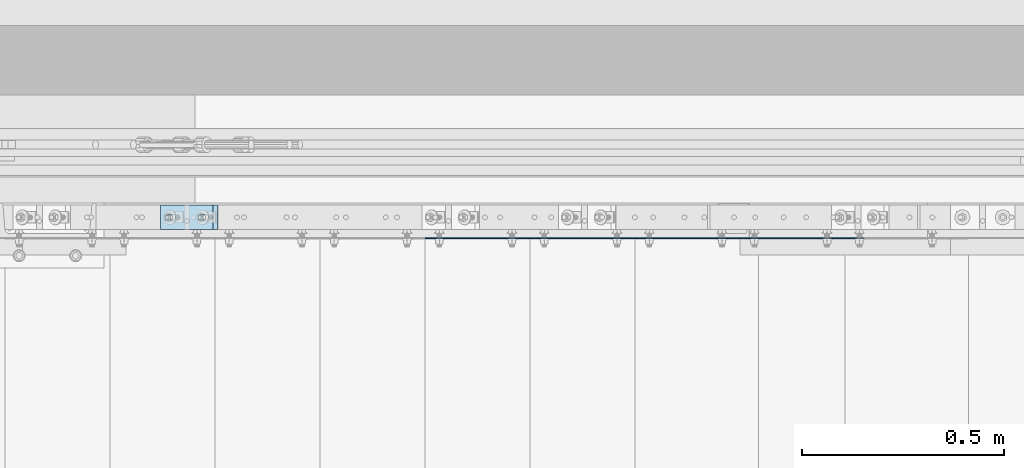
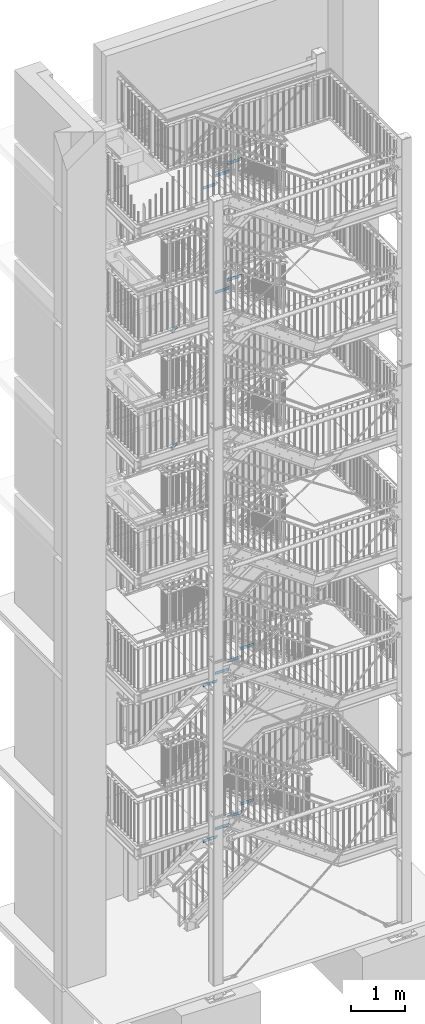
# One storey, part 196 of 831: 15 plates, 30 openings.
"""IFC2X3 building model written with IfcOpenShell, lengths in millimetres."""

import ifcopenshell
import ifcopenshell.guid

model = None  # the IFC model being written
_history = None  # IfcOwnerHistory: only IFC2X3 demands one
_inside = {}  # id of a spatial element -> (the spatial element, [elements in it])
_under = {}  # id of a project, library or spatial element -> (it, [spatial elements below it])
_declared = {}  # id of a project -> (the project, [libraries it declares])
_typed = {}  # id of a type object -> (the type object, [elements of that type])
_made_of = {}  # id of a material, layer set ... -> (it, [elements and type objects made of it])


def new_model(schema):
    """Start an empty IFC model of exactly this schema.

    Asked for "IFC4X3", IfcOpenShell would pick the latest addendum, in which some entities
    have other attributes; the version numbers below select the first issue.
    IFC2X3 requires an IfcOwnerHistory on every rooted entity: one is made here for all.
    """
    global model, _history
    if schema == "IFC4X3":
        model = ifcopenshell.file(schema_version=(4, 3, 0, 0))
    else:
        model = ifcopenshell.file(schema=schema)
    _inside.clear()
    _under.clear()
    _declared.clear()
    _typed.clear()
    _made_of.clear()
    _history = None
    if model.schema == "IFC2X3":
        org = make("IfcOrganization", Name="unknown")
        user = make(
            "IfcPersonAndOrganization",
            ThePerson=make("IfcPerson", FamilyName="unknown"),
            TheOrganization=org,
        )
        app = make(
            "IfcApplication",
            ApplicationDeveloper=org,
            Version="unknown",
            ApplicationFullName="unknown",
            ApplicationIdentifier="unknown",
        )
        _history = make(
            "IfcOwnerHistory",
            OwningUser=user,
            OwningApplication=app,
            ChangeAction="ADDED",
            CreationDate=0,
        )
    return model


def make(cls, **values):
    """One entity of the class cls with the attributes given. An attribute that is None is left unset."""
    return model.create_entity(
        cls, **{name: value for name, value in values.items() if value is not None}
    )


def entity(cls, *values):
    """Any entity or typed value of the class cls, its attributes in the order of the schema. None: left unset."""
    e = model.create_entity(cls)
    for i, value in enumerate(values):
        if value is not None:
            e[i] = value
    return e


def rooted(cls, **values):
    """An entity with a GlobalId (a new one), such as an element, a storey or a relation."""
    return make(cls, GlobalId=ifcopenshell.guid.new(), OwnerHistory=_history, **values)


def si_unit(unit_type, name, prefix=None):
    """IfcSIUnit, for example si_unit("LENGTHUNIT", "METRE", prefix="MILLI")."""
    return make("IfcSIUnit", UnitType=unit_type, Prefix=prefix, Name=name)


def converted_unit(unit_type, name, factor, base, dimensions=None, offset=None):
    """IfcConversionBasedUnit, such as the inch: factor (a typed value) times the base unit."""
    return make(
        "IfcConversionBasedUnit"
        if offset is None
        else "IfcConversionBasedUnitWithOffset",
        ConversionOffset=offset,
        Dimensions=None
        if dimensions is None
        else entity("IfcDimensionalExponents", *dimensions),
        UnitType=unit_type,
        Name=name,
        ConversionFactor=make(
            "IfcMeasureWithUnit", ValueComponent=factor, UnitComponent=base
        ),
    )


def assignment(units):
    """IfcUnitAssignment: the units of a project."""
    return None if units is None else make("IfcUnitAssignment", Units=units)


def point(xyz):
    """IfcCartesianPoint."""
    return None if xyz is None else make("IfcCartesianPoint", Coordinates=xyz)


def direction(xyz):
    """IfcDirection."""
    return None if xyz is None else make("IfcDirection", DirectionRatios=xyz)


def frame(location, z_axis=None, x_axis=None):
    """IfcAxis2Placement3D, a coordinate frame: its origin and axes. An axis left out is left unset."""
    return make(
        "IfcAxis2Placement3D",
        Location=point(location),
        Axis=direction(z_axis),
        RefDirection=direction(x_axis),
    )


def frame_2d(location, x_axis=None):
    """IfcAxis2Placement2D, a coordinate frame in the plane: its origin and x axis."""
    return make(
        "IfcAxis2Placement2D", Location=point(location), RefDirection=direction(x_axis)
    )


def origin():
    """The frame at (0, 0, 0) with its axes left unset."""
    return frame((0.0, 0.0, 0.0))


def origin_with_axes():
    """The frame at (0, 0, 0) with the z axis (0, 0, 1) and the x axis (1, 0, 0) written out."""
    return frame((0.0, 0.0, 0.0), z_axis=(0.0, 0.0, 1.0), x_axis=(1.0, 0.0, 0.0))


def origin_2d_with_axis():
    """The frame at (0, 0) in the plane with the x axis (1, 0) written out."""
    return frame_2d((0.0, 0.0), x_axis=(1.0, 0.0))


def place(relative_to, where):
    """IfcLocalPlacement: puts the frame where relative to a parent placement (None: the world)."""
    return make(
        "IfcLocalPlacement", PlacementRelTo=relative_to, RelativePlacement=where
    )


def context(
    kind, dimensions, precision=None, world=None, true_north=None, identifier=None
):
    """IfcGeometricRepresentationContext, for example the 3D "Model" context."""
    return make(
        "IfcGeometricRepresentationContext",
        ContextIdentifier=identifier,
        ContextType=kind,
        CoordinateSpaceDimension=dimensions,
        Precision=precision,
        WorldCoordinateSystem=world,
        TrueNorth=true_north,
    )


def project(units=None, contexts=None):
    """IfcProject with its units and contexts."""
    return rooted(
        "IfcProject",
        Name="project",
        RepresentationContexts=contexts,
        UnitsInContext=assignment(units),
    )


def spatial(cls, under=None, at=None, **own):
    """A site, building, storey or space (cls), placed at a placement, below another one or the project."""
    s = rooted(cls, ObjectPlacement=at, **own)
    if under is not None:
        _under.setdefault(under.id(), (under, []))[1].append(s)
    return s


def polyline(points):
    """IfcPolyline through the points."""
    return make("IfcPolyline", Points=[point(p) for p in points])


def circle_curve(where, radius):
    """IfcCircle in the frame where."""
    return make("IfcCircle", Position=where, Radius=radius)


def line_curve(start, along, magnitude):
    """IfcLine from a point along a vector."""
    return make(
        "IfcLine",
        Pnt=point(start),
        Dir=make("IfcVector", Orientation=direction(along), Magnitude=magnitude),
    )


def trimmed(basis, trim1, trim2, sense, master):
    """IfcTrimmedCurve: the piece of a basis curve between two trims."""
    return make(
        "IfcTrimmedCurve",
        BasisCurve=basis,
        Trim1=trim1,
        Trim2=trim2,
        SenseAgreement=sense,
        MasterRepresentation=master,
    )


def segment(curve, same_sense, transition):
    """IfcCompositeCurveSegment."""
    return make(
        "IfcCompositeCurveSegment",
        Transition=transition,
        SameSense=same_sense,
        ParentCurve=curve,
    )


def composite_curve(segments, self_intersect=None):
    """IfcCompositeCurve: segments joined end to end."""
    return make("IfcCompositeCurve", Segments=segments, SelfIntersect=self_intersect)


def profile(cls, at=None, kind="AREA", **sizes):
    """A parametric profile (cls). Its sizes go by their IFC names, for example OverallWidth=200.0."""
    return make(cls, ProfileType=kind, Position=at, **sizes)


def circle(**sizes):
    """IfcCircleProfileDef."""
    return profile("IfcCircleProfileDef", **sizes)


def outline(outer, holes=None, kind="AREA"):
    """IfcArbitraryClosedProfileDef: a profile drawn as a closed curve; with holes, ...WithVoids."""
    if holes is None:
        return make("IfcArbitraryClosedProfileDef", ProfileType=kind, OuterCurve=outer)
    return make(
        "IfcArbitraryProfileDefWithVoids",
        ProfileType=kind,
        OuterCurve=outer,
        InnerCurves=holes,
    )


def extrude(swept, where, along, depth):
    """IfcExtrudedAreaSolid: the profile swept, set in the frame where, extruded along a direction by depth."""
    return make(
        "IfcExtrudedAreaSolid",
        SweptArea=swept,
        Position=where,
        ExtrudedDirection=direction(along),
        Depth=depth,
    )


def shape(context_of_items, identifier, shape_type, items):
    """IfcShapeRepresentation: the items that make up one representation, for example the "Body"."""
    return make(
        "IfcShapeRepresentation",
        ContextOfItems=context_of_items,
        RepresentationIdentifier=identifier,
        RepresentationType=shape_type,
        Items=items,
    )


def material(Name=None, Category=None):
    """IfcMaterial."""
    return make("IfcMaterial", Name=Name, Category=Category)


def layer(
    of_material, thickness, ventilated=None, Name=None, Category=None, Priority=None
):
    """IfcMaterialLayer: one layer of a wall or slab, of a material (None: an air gap)."""
    return make(
        "IfcMaterialLayer",
        Material=of_material,
        LayerThickness=thickness,
        IsVentilated=ventilated,
        Name=Name,
        Category=Category,
        Priority=Priority,
    )


def layer_set(layers, Name=None):
    """IfcMaterialLayerSet."""
    return make("IfcMaterialLayerSet", MaterialLayers=layers, LayerSetName=Name)


def made_of(thing, what):
    """Note that an element or type object is made of a material, layer set ...; save() writes the relation."""
    if what is not None:
        _made_of.setdefault(what.id(), (what, []))[1].append(thing)
    return thing


def element(
    cls,
    number,
    at=None,
    inside=None,
    cuts=None,
    type_object=None,
    material=None,
    context=None,
    identifier="Body",
    shape_type=None,
    held_by="IfcProductDefinitionShape",
    body=None,
    shapes=None,
    **own,
):
    """One element of the class cls, such as IfcWall. Its Tag is "e" and its number.

    at: its placement. inside: the storey or other place that contains it. cuts: it is an
    opening in that element (IfcRelVoidsElement). A single representation is given by context,
    identifier, shape_type and body (its items); several are given by shapes. held_by: the class
    of the entity that holds the representations. save() writes the other relations.
    """
    e = rooted(cls, Tag="e%d" % number, ObjectPlacement=at, **own)
    if body is not None:
        shapes = [shape(context, identifier, shape_type, body)]
    if shapes is not None:
        e.Representation = make(held_by, Representations=shapes)
    if inside is not None:
        _inside.setdefault(inside.id(), (inside, []))[1].append(e)
    if cuts is not None:
        rooted(
            "IfcRelVoidsElement", RelatingBuildingElement=cuts, RelatedOpeningElement=e
        )
    if type_object is not None:
        _typed.setdefault(type_object.id(), (type_object, []))[1].append(e)
    return made_of(e, material)


def aggregate(whole, parts):
    """IfcRelAggregates: a whole, such as a stair, and the parts it consists of."""
    return rooted("IfcRelAggregates", RelatingObject=whole, RelatedObjects=parts)


def save(model, path):
    """Write the relations noted so far, then the file.

    IfcRelAggregates (storeys below a building ...), IfcRelContainedInSpatialStructure (elements
    in a storey), IfcRelDefinesByType, IfcRelAssociatesMaterial and IfcRelDeclares: one each for
    every whole, place, type object, material and project.
    """
    for whole, parts in _under.values():
        aggregate(whole, parts)
    for where, things in _inside.values():
        rooted(
            "IfcRelContainedInSpatialStructure",
            RelatedElements=things,
            RelatingStructure=where,
        )
    for kind, things in _typed.values():
        rooted("IfcRelDefinesByType", RelatedObjects=things, RelatingType=kind)
    for what, things in _made_of.values():
        rooted("IfcRelAssociatesMaterial", RelatedObjects=things, RelatingMaterial=what)
    for by, libraries in _declared.values():
        rooted("IfcRelDeclares", RelatingContext=by, RelatedDefinitions=libraries)
    model.write(path)


model = new_model("IFC2X3")

# Units and contexts
model_context = context("Model", 3, precision=1e-09, world=origin_with_axes())
ifc_project = project(units=[si_unit("LENGTHUNIT", "METRE", prefix="MILLI"), si_unit("AREAUNIT", "SQUARE_METRE"), si_unit("VOLUMEUNIT", "CUBIC_METRE"), converted_unit("PLANEANGLEUNIT", "DEGREE", entity("IfcPlaneAngleMeasure", 0.01745329), si_unit("PLANEANGLEUNIT", "RADIAN"), dimensions=[0, 0, 0, 0, 0, 0, 0])], contexts=[model_context])

# Site, building, storey
site_placement = place(None, origin_with_axes())
site = spatial("IfcSite", under=ifc_project, at=site_placement, Name="Site", CompositionType="ELEMENT")
building_placement = place(site_placement, origin_with_axes())
building = spatial("IfcBuilding", under=site, at=building_placement, Name="Struktur 1", CompositionType="ELEMENT")
storey_placement = place(building_placement, origin_with_axes())
storey = spatial("IfcBuildingStorey", under=building, at=storey_placement, Name="Default Storey", CompositionType="ELEMENT", Elevation=0.0)

# Plate, openings
ifc_material = material(Name="S235JR")
ifc_layer_1 = layer(ifc_material, 20.0)
ifc_layer_set_1 = layer_set([ifc_layer_1], Name="S235JR")
plate_1_placement = place(None, frame((5763.281182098, 7386.736971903, 10372.025702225), z_axis=(-0.585213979, 0.0, 0.810878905), x_axis=(-0.810878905, 0.0, -0.585213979)))
plate_1 = element("IfcPlate", 1, at=plate_1_placement, inside=storey, material=ifc_layer_set_1, Name="Plate#501", ObjectType="Plate#501", context=model_context, shape_type="SweptSolid", body=[
    extrude(outline(polyline([(0.0, 0.0), (160.0, 0.0), (160.0, 60.0), (0.0, 60.0), (0.0, 0.0)])), origin_with_axes(), (0.0, 0.0, 1.0), 20.0),
])
opening_1_placement = place(plate_1_placement, frame((38.0, 37.001, 20.5), z_axis=(0.0, 0.0, 1.0), x_axis=(-1.0, 0.0, 0.0)))
element("IfcOpeningElement", 2, at=opening_1_placement, cuts=plate_1, ObjectType="Opening", context=model_context, shape_type="SweptSolid", body=[
    extrude(outline(composite_curve([segment(trimmed(line_curve((0.0, 0.0), (1.0, 0.0), 16.0), [point((0.0, 0.0))], [point((16.0, 0.0))], True, "CARTESIAN"), True, "CONTINUOUS"), segment(trimmed(circle_curve(frame_2d((16.0, 7.001), x_axis=(1.0, 0.0)), 7.001), [point((16.0, 0.0))], [point((16.0, 14.002))], True, "CARTESIAN"), True, "CONTINUOUS"), segment(trimmed(line_curve((16.0, 14.002), (-1.0, 0.0), 16.0), [point((16.0, 14.002))], [point((0.0, 14.002))], True, "CARTESIAN"), True, "CONTINUOUS"), segment(trimmed(circle_curve(frame_2d((0.0, 7.001), x_axis=(1.0, 0.0)), 7.001), [point((0.0, 14.002))], [point((0.0, 0.0))], True, "CARTESIAN"), True, "CONTINUOUS")], self_intersect=False)), origin(), (0.0, 0.0, -1.0), 21.0),
])
opening_2_placement = place(plate_1_placement, frame((138.0, 37.001, 20.5), z_axis=(0.0, 0.0, 1.0), x_axis=(-1.0, 0.0, 0.0)))
element("IfcOpeningElement", 3, at=opening_2_placement, cuts=plate_1, ObjectType="Opening", context=model_context, shape_type="SweptSolid", body=[
    extrude(outline(composite_curve([segment(trimmed(line_curve((0.0, 0.0), (1.0, 0.0), 16.0), [point((0.0, 0.0))], [point((16.0, 0.0))], True, "CARTESIAN"), True, "CONTINUOUS"), segment(trimmed(circle_curve(frame_2d((16.0, 7.001), x_axis=(1.0, 0.0)), 7.001), [point((16.0, 0.0))], [point((16.0, 14.002))], True, "CARTESIAN"), True, "CONTINUOUS"), segment(trimmed(line_curve((16.0, 14.002), (-1.0, 0.0), 16.0), [point((16.0, 14.002))], [point((0.0, 14.002))], True, "CARTESIAN"), True, "CONTINUOUS"), segment(trimmed(circle_curve(frame_2d((0.0, 7.001), x_axis=(1.0, 0.0)), 7.001), [point((0.0, 14.002))], [point((0.0, 0.0))], True, "CARTESIAN"), True, "CONTINUOUS")], self_intersect=False)), origin(), (0.0, 0.0, -1.0), 21.0),
])

plate_2_placement = place(None, frame((5763.209151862, 7386.736971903, 13000.130851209), z_axis=(-0.586383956, 0.0, 0.810033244), x_axis=(-0.810033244, 0.0, -0.586383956)))
plate_2 = element("IfcPlate", 4, at=plate_2_placement, inside=storey, material=ifc_layer_set_1, Name="Plate#501", ObjectType="Plate#501", context=model_context, shape_type="SweptSolid", body=[
    extrude(outline(polyline([(0.0, 0.0), (160.0, 0.0), (160.0, 60.0), (0.0, 60.0), (0.0, 0.0)])), origin_with_axes(), (0.0, 0.0, 1.0), 20.0),
])
opening_3_placement = place(plate_2_placement, frame((38.0, 37.001, 20.5), z_axis=(0.0, 0.0, 1.0), x_axis=(-1.0, 0.0, 0.0)))
element("IfcOpeningElement", 5, at=opening_3_placement, cuts=plate_2, ObjectType="Opening", context=model_context, shape_type="SweptSolid", body=[
    extrude(outline(composite_curve([segment(trimmed(line_curve((0.0, 0.0), (1.0, 0.0), 16.0), [point((0.0, 0.0))], [point((16.0, 0.0))], True, "CARTESIAN"), True, "CONTINUOUS"), segment(trimmed(circle_curve(frame_2d((16.0, 7.001), x_axis=(1.0, 0.0)), 7.001), [point((16.0, 0.0))], [point((16.0, 14.002))], True, "CARTESIAN"), True, "CONTINUOUS"), segment(trimmed(line_curve((16.0, 14.002), (-1.0, 0.0), 16.0), [point((16.0, 14.002))], [point((0.0, 14.002))], True, "CARTESIAN"), True, "CONTINUOUS"), segment(trimmed(circle_curve(frame_2d((0.0, 7.001), x_axis=(1.0, 0.0)), 7.001), [point((0.0, 14.002))], [point((0.0, 0.0))], True, "CARTESIAN"), True, "CONTINUOUS")], self_intersect=False)), origin(), (0.0, 0.0, -1.0), 21.0),
])
opening_4_placement = place(plate_2_placement, frame((138.0, 37.001, 20.5), z_axis=(0.0, 0.0, 1.0), x_axis=(-1.0, 0.0, 0.0)))
element("IfcOpeningElement", 6, at=opening_4_placement, cuts=plate_2, ObjectType="Opening", context=model_context, shape_type="SweptSolid", body=[
    extrude(outline(composite_curve([segment(trimmed(line_curve((0.0, 0.0), (1.0, 0.0), 16.0), [point((0.0, 0.0))], [point((16.0, 0.0))], True, "CARTESIAN"), True, "CONTINUOUS"), segment(trimmed(circle_curve(frame_2d((16.0, 7.001), x_axis=(1.0, 0.0)), 7.001), [point((16.0, 0.0))], [point((16.0, 14.002))], True, "CARTESIAN"), True, "CONTINUOUS"), segment(trimmed(line_curve((16.0, 14.002), (-1.0, 0.0), 16.0), [point((16.0, 14.002))], [point((0.0, 14.002))], True, "CARTESIAN"), True, "CONTINUOUS"), segment(trimmed(circle_curve(frame_2d((0.0, 7.001), x_axis=(1.0, 0.0)), 7.001), [point((0.0, 14.002))], [point((0.0, 0.0))], True, "CARTESIAN"), True, "CONTINUOUS")], self_intersect=False)), origin(), (0.0, 0.0, -1.0), 21.0),
])

ifc_layer_2 = layer(ifc_material, 3.0)
ifc_layer_set_2 = layer_set([ifc_layer_2], Name="S235JR")
plate_3_placement = place(None, frame((6536.713402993, 7306.736971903, 13560.0714287), z_axis=(0.0, -1.0, 0.0), x_axis=(0.0, 0.0, -1.0)))
plate_3 = element("IfcPlate", 7, at=plate_3_placement, inside=storey, material=ifc_layer_set_2, Name="Grate_Step#30", ObjectType="Grate_Step#30", context=model_context, shape_type="SweptSolid", body=[
    extrude(outline(polyline([(0.0, 0.0), (70.0, 0.0), (70.0, 275.0), (40.0, 305.0), (0.0, 305.0), (0.0, 0.0)])), origin_with_axes(), (0.0, 0.0, 1.0), 3.0),
])
opening_5_placement = place(plate_3_placement, frame((55.0, 35.0, 3.5), z_axis=(0.0, 0.0, -1.0), x_axis=(0.0, 1.0, 0.0)))
element("IfcOpeningElement", 8, at=opening_5_placement, cuts=plate_3, ObjectType="Opening", context=model_context, shape_type="SweptSolid", body=[
    extrude(circle(Radius=7.001, at=origin_2d_with_axis()), origin(), (0.0, 0.0, 1.0), 4.0),
])
opening_6_placement = place(plate_3_placement, frame((55.0, 215.0, 3.5), z_axis=(0.0, 0.0, -1.0), x_axis=(0.0, 1.0, 0.0)))
element("IfcOpeningElement", 9, at=opening_6_placement, cuts=plate_3, ObjectType="Opening", context=model_context, shape_type="SweptSolid", body=[
    extrude(outline(composite_curve([segment(trimmed(line_curve((-9.5, -7.001), (1.0, 0.0), 19.0), [point((-9.5, -7.001))], [point((9.5, -7.001))], True, "CARTESIAN"), True, "CONTINUOUS"), segment(trimmed(circle_curve(frame_2d((9.5, 0.0), x_axis=(1.0, 0.0)), 7.001), [point((9.5, -7.001))], [point((9.5, 7.001))], True, "CARTESIAN"), True, "CONTINUOUS"), segment(trimmed(line_curve((9.5, 7.001), (-1.0, 0.0), 19.0), [point((9.5, 7.001))], [point((-9.5, 7.001))], True, "CARTESIAN"), True, "CONTINUOUS"), segment(trimmed(circle_curve(frame_2d((-9.5, 0.0), x_axis=(1.0, 0.0)), 7.001), [point((-9.5, 7.001))], [point((-9.5, -7.001))], True, "CARTESIAN"), True, "CONTINUOUS")], self_intersect=False)), origin(), (0.0, 0.0, 1.0), 4.0),
])

plate_4_placement = place(None, frame((6796.713402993, 7306.736971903, 13748.2857144), z_axis=(0.0, -1.0, 0.0), x_axis=(0.0, 0.0, -1.0)))
plate_4 = element("IfcPlate", 10, at=plate_4_placement, inside=storey, material=ifc_layer_set_2, Name="Grate_Step#37", ObjectType="Grate_Step#37", context=model_context, shape_type="SweptSolid", body=[
    extrude(outline(polyline([(0.0, 0.0), (70.0, 0.0), (70.0, 275.0), (40.0, 305.0), (0.0, 305.0), (0.0, 0.0)])), origin_with_axes(), (0.0, 0.0, 1.0), 3.0),
])
opening_7_placement = place(plate_4_placement, frame((55.0, 215.0, 3.5), z_axis=(0.0, 0.0, -1.0), x_axis=(0.0, 1.0, 0.0)))
element("IfcOpeningElement", 11, at=opening_7_placement, cuts=plate_4, ObjectType="Opening", context=model_context, shape_type="SweptSolid", body=[
    extrude(outline(composite_curve([segment(trimmed(line_curve((-9.5, -7.001), (1.0, 0.0), 19.0), [point((-9.5, -7.001))], [point((9.5, -7.001))], True, "CARTESIAN"), True, "CONTINUOUS"), segment(trimmed(circle_curve(frame_2d((9.5, 0.0), x_axis=(1.0, 0.0)), 7.001), [point((9.5, -7.001))], [point((9.5, 7.001))], True, "CARTESIAN"), True, "CONTINUOUS"), segment(trimmed(line_curve((9.5, 7.001), (-1.0, 0.0), 19.0), [point((9.5, 7.001))], [point((-9.5, 7.001))], True, "CARTESIAN"), True, "CONTINUOUS"), segment(trimmed(circle_curve(frame_2d((-9.5, 0.0), x_axis=(1.0, 0.0)), 7.001), [point((-9.5, 7.001))], [point((-9.5, -7.001))], True, "CARTESIAN"), True, "CONTINUOUS")], self_intersect=False)), origin(), (0.0, 0.0, 1.0), 4.0),
])
opening_8_placement = place(plate_4_placement, frame((55.0, 35.0, 3.5), z_axis=(0.0, 0.0, -1.0), x_axis=(0.0, 1.0, 0.0)))
element("IfcOpeningElement", 12, at=opening_8_placement, cuts=plate_4, ObjectType="Opening", context=model_context, shape_type="SweptSolid", body=[
    extrude(circle(Radius=7.001, at=origin_2d_with_axis()), origin(), (0.0, 0.0, 1.0), 4.0),
])

plate_5_placement = place(None, frame((6276.713402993, 7306.736971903, 16002.571429), z_axis=(0.0, -1.0, 0.0), x_axis=(0.0, 0.0, -1.0)))
plate_5 = element("IfcPlate", 13, at=plate_5_placement, inside=storey, material=ifc_layer_set_2, Name="Grate_Step#23", ObjectType="Grate_Step#23", context=model_context, shape_type="SweptSolid", body=[
    extrude(outline(polyline([(0.0, 0.0), (70.0, 0.0), (70.0, 275.0), (40.0, 305.0), (0.0, 305.0), (0.0, 0.0)])), origin_with_axes(), (0.0, 0.0, 1.0), 3.0),
])
opening_9_placement = place(plate_5_placement, frame((55.0, 215.0, 3.5), z_axis=(0.0, 0.0, -1.0), x_axis=(0.0, 1.0, 0.0)))
element("IfcOpeningElement", 14, at=opening_9_placement, cuts=plate_5, ObjectType="Opening", context=model_context, shape_type="SweptSolid", body=[
    extrude(outline(composite_curve([segment(trimmed(line_curve((-9.5, -7.001), (1.0, 0.0), 19.0), [point((-9.5, -7.001))], [point((9.5, -7.001))], True, "CARTESIAN"), True, "CONTINUOUS"), segment(trimmed(circle_curve(frame_2d((9.5, 0.0), x_axis=(1.0, 0.0)), 7.001), [point((9.5, -7.001))], [point((9.5, 7.001))], True, "CARTESIAN"), True, "CONTINUOUS"), segment(trimmed(line_curve((9.5, 7.001), (-1.0, 0.0), 19.0), [point((9.5, 7.001))], [point((-9.5, 7.001))], True, "CARTESIAN"), True, "CONTINUOUS"), segment(trimmed(circle_curve(frame_2d((-9.5, 0.0), x_axis=(1.0, 0.0)), 7.001), [point((-9.5, 7.001))], [point((-9.5, -7.001))], True, "CARTESIAN"), True, "CONTINUOUS")], self_intersect=False)), origin(), (0.0, 0.0, 1.0), 4.0),
])
opening_10_placement = place(plate_5_placement, frame((55.0, 35.0, 3.5), z_axis=(0.0, 0.0, -1.0), x_axis=(0.0, 1.0, 0.0)))
element("IfcOpeningElement", 15, at=opening_10_placement, cuts=plate_5, ObjectType="Opening", context=model_context, shape_type="SweptSolid", body=[
    extrude(circle(Radius=7.001, at=origin_2d_with_axis()), origin(), (0.0, 0.0, 1.0), 4.0),
])

plate_6_placement = place(None, frame((6536.713402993, 7306.736971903, 16189.7142861), z_axis=(0.0, -1.0, 0.0), x_axis=(0.0, 0.0, -1.0)))
plate_6 = element("IfcPlate", 16, at=plate_6_placement, inside=storey, material=ifc_layer_set_2, Name="Grate_Step#30", ObjectType="Grate_Step#30", context=model_context, shape_type="SweptSolid", body=[
    extrude(outline(polyline([(0.0, 0.0), (70.0, 0.0), (70.0, 275.0), (40.0, 305.0), (0.0, 305.0), (0.0, 0.0)])), origin_with_axes(), (0.0, 0.0, 1.0), 3.0),
])
opening_11_placement = place(plate_6_placement, frame((55.0, 35.0, 3.5), z_axis=(0.0, 0.0, -1.0), x_axis=(0.0, 1.0, 0.0)))
element("IfcOpeningElement", 17, at=opening_11_placement, cuts=plate_6, ObjectType="Opening", context=model_context, shape_type="SweptSolid", body=[
    extrude(circle(Radius=7.001, at=origin_2d_with_axis()), origin(), (0.0, 0.0, 1.0), 4.0),
])
opening_12_placement = place(plate_6_placement, frame((55.0, 215.0, 3.5), z_axis=(0.0, 0.0, -1.0), x_axis=(0.0, 1.0, 0.0)))
element("IfcOpeningElement", 18, at=opening_12_placement, cuts=plate_6, ObjectType="Opening", context=model_context, shape_type="SweptSolid", body=[
    extrude(outline(composite_curve([segment(trimmed(line_curve((-9.5, -7.001), (1.0, 0.0), 19.0), [point((-9.5, -7.001))], [point((9.5, -7.001))], True, "CARTESIAN"), True, "CONTINUOUS"), segment(trimmed(circle_curve(frame_2d((9.5, 0.0), x_axis=(1.0, 0.0)), 7.001), [point((9.5, -7.001))], [point((9.5, 7.001))], True, "CARTESIAN"), True, "CONTINUOUS"), segment(trimmed(line_curve((9.5, 7.001), (-1.0, 0.0), 19.0), [point((9.5, 7.001))], [point((-9.5, 7.001))], True, "CARTESIAN"), True, "CONTINUOUS"), segment(trimmed(circle_curve(frame_2d((-9.5, 0.0), x_axis=(1.0, 0.0)), 7.001), [point((-9.5, 7.001))], [point((-9.5, -7.001))], True, "CARTESIAN"), True, "CONTINUOUS")], self_intersect=False)), origin(), (0.0, 0.0, 1.0), 4.0),
])

plate_7_placement = place(None, frame((6796.713402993, 7306.736971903, 16376.8571432), z_axis=(0.0, -1.0, 0.0), x_axis=(0.0, 0.0, -1.0)))
plate_7 = element("IfcPlate", 19, at=plate_7_placement, inside=storey, material=ifc_layer_set_2, Name="Grate_Step#37", ObjectType="Grate_Step#37", context=model_context, shape_type="SweptSolid", body=[
    extrude(outline(polyline([(0.0, 0.0), (70.0, 0.0), (70.0, 275.0), (40.0, 305.0), (0.0, 305.0), (0.0, 0.0)])), origin_with_axes(), (0.0, 0.0, 1.0), 3.0),
])
opening_13_placement = place(plate_7_placement, frame((55.0, 35.0, 3.5), z_axis=(0.0, 0.0, -1.0), x_axis=(0.0, 1.0, 0.0)))
element("IfcOpeningElement", 20, at=opening_13_placement, cuts=plate_7, ObjectType="Opening", context=model_context, shape_type="SweptSolid", body=[
    extrude(circle(Radius=7.001, at=origin_2d_with_axis()), origin(), (0.0, 0.0, 1.0), 4.0),
])
opening_14_placement = place(plate_7_placement, frame((55.0, 215.0, 3.5), z_axis=(0.0, 0.0, -1.0), x_axis=(0.0, 1.0, 0.0)))
element("IfcOpeningElement", 21, at=opening_14_placement, cuts=plate_7, ObjectType="Opening", context=model_context, shape_type="SweptSolid", body=[
    extrude(outline(composite_curve([segment(trimmed(line_curve((-9.5, -7.001), (1.0, 0.0), 19.0), [point((-9.5, -7.001))], [point((9.5, -7.001))], True, "CARTESIAN"), True, "CONTINUOUS"), segment(trimmed(circle_curve(frame_2d((9.5, 0.0), x_axis=(1.0, 0.0)), 7.001), [point((9.5, -7.001))], [point((9.5, 7.001))], True, "CARTESIAN"), True, "CONTINUOUS"), segment(trimmed(line_curve((9.5, 7.001), (-1.0, 0.0), 19.0), [point((9.5, 7.001))], [point((-9.5, 7.001))], True, "CARTESIAN"), True, "CONTINUOUS"), segment(trimmed(circle_curve(frame_2d((-9.5, 0.0), x_axis=(1.0, 0.0)), 7.001), [point((-9.5, 7.001))], [point((-9.5, -7.001))], True, "CARTESIAN"), True, "CONTINUOUS")], self_intersect=False)), origin(), (0.0, 0.0, 1.0), 4.0),
])

plate_8_placement = place(None, frame((6276.713402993, 7306.736971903, 1295.5263152), z_axis=(0.0, -1.0, 0.0), x_axis=(0.0, 0.0, -1.0)))
plate_8 = element("IfcPlate", 22, at=plate_8_placement, inside=storey, material=ifc_layer_set_2, Name="Grate_Step#30", ObjectType="Grate_Step#30", context=model_context, shape_type="SweptSolid", body=[
    extrude(outline(polyline([(0.0, 0.0), (70.0, 0.0), (70.0, 275.0), (40.0, 305.0), (0.0, 305.0), (0.0, 0.0)])), origin_with_axes(), (0.0, 0.0, 1.0), 3.0),
])
opening_15_placement = place(plate_8_placement, frame((55.0, 35.0, 3.5), z_axis=(0.0, 0.0, -1.0), x_axis=(0.0, 1.0, 0.0)))
element("IfcOpeningElement", 23, at=opening_15_placement, cuts=plate_8, ObjectType="Opening", context=model_context, shape_type="SweptSolid", body=[
    extrude(circle(Radius=7.001, at=origin_2d_with_axis()), origin(), (0.0, 0.0, 1.0), 4.0),
])
opening_16_placement = place(plate_8_placement, frame((55.0, 215.0, 3.5), z_axis=(0.0, 0.0, -1.0), x_axis=(0.0, 1.0, 0.0)))
element("IfcOpeningElement", 24, at=opening_16_placement, cuts=plate_8, ObjectType="Opening", context=model_context, shape_type="SweptSolid", body=[
    extrude(outline(composite_curve([segment(trimmed(line_curve((-9.5, -7.001), (1.0, 0.0), 19.0), [point((-9.5, -7.001))], [point((9.5, -7.001))], True, "CARTESIAN"), True, "CONTINUOUS"), segment(trimmed(circle_curve(frame_2d((9.5, 0.0), x_axis=(1.0, 0.0)), 7.001), [point((9.5, -7.001))], [point((9.5, 7.001))], True, "CARTESIAN"), True, "CONTINUOUS"), segment(trimmed(line_curve((9.5, 7.001), (-1.0, 0.0), 19.0), [point((9.5, 7.001))], [point((-9.5, 7.001))], True, "CARTESIAN"), True, "CONTINUOUS"), segment(trimmed(circle_curve(frame_2d((-9.5, 0.0), x_axis=(1.0, 0.0)), 7.001), [point((-9.5, 7.001))], [point((-9.5, -7.001))], True, "CARTESIAN"), True, "CONTINUOUS")], self_intersect=False)), origin(), (0.0, 0.0, 1.0), 4.0),
])

plate_9_placement = place(None, frame((6796.713402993, 7306.736971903, 1665.7368416), z_axis=(0.0, -1.0, 0.0), x_axis=(0.0, 0.0, -1.0)))
plate_9 = element("IfcPlate", 25, at=plate_9_placement, inside=storey, material=ifc_layer_set_2, Name="Grate_Step#44", ObjectType="Grate_Step#44", context=model_context, shape_type="SweptSolid", body=[
    extrude(outline(polyline([(0.0, 0.0), (70.0, 0.0), (70.0, 275.0), (40.0, 305.0), (0.0, 305.0), (0.0, 0.0)])), origin_with_axes(), (0.0, 0.0, 1.0), 3.0),
])
opening_17_placement = place(plate_9_placement, frame((55.0, 35.0, 3.5), z_axis=(0.0, 0.0, -1.0), x_axis=(0.0, 1.0, 0.0)))
element("IfcOpeningElement", 26, at=opening_17_placement, cuts=plate_9, ObjectType="Opening", context=model_context, shape_type="SweptSolid", body=[
    extrude(circle(Radius=7.001, at=origin_2d_with_axis()), origin(), (0.0, 0.0, 1.0), 4.0),
])
opening_18_placement = place(plate_9_placement, frame((55.0, 215.0, 3.5), z_axis=(0.0, 0.0, -1.0), x_axis=(0.0, 1.0, 0.0)))
element("IfcOpeningElement", 27, at=opening_18_placement, cuts=plate_9, ObjectType="Opening", context=model_context, shape_type="SweptSolid", body=[
    extrude(outline(composite_curve([segment(trimmed(line_curve((-9.5, -7.001), (1.0, 0.0), 19.0), [point((-9.5, -7.001))], [point((9.5, -7.001))], True, "CARTESIAN"), True, "CONTINUOUS"), segment(trimmed(circle_curve(frame_2d((9.5, 0.0), x_axis=(1.0, 0.0)), 7.001), [point((9.5, -7.001))], [point((9.5, 7.001))], True, "CARTESIAN"), True, "CONTINUOUS"), segment(trimmed(line_curve((9.5, 7.001), (-1.0, 0.0), 19.0), [point((9.5, 7.001))], [point((-9.5, 7.001))], True, "CARTESIAN"), True, "CONTINUOUS"), segment(trimmed(circle_curve(frame_2d((-9.5, 0.0), x_axis=(1.0, 0.0)), 7.001), [point((-9.5, 7.001))], [point((-9.5, -7.001))], True, "CARTESIAN"), True, "CONTINUOUS")], self_intersect=False)), origin(), (0.0, 0.0, 1.0), 4.0),
])

plate_10_placement = place(None, frame((6536.713402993, 7306.736971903, 4983.7368419), z_axis=(0.0, -1.0, 0.0), x_axis=(0.0, 0.0, -1.0)))
plate_10 = element("IfcPlate", 28, at=plate_10_placement, inside=storey, material=ifc_layer_set_2, Name="Grate_Step#37", ObjectType="Grate_Step#37", context=model_context, shape_type="SweptSolid", body=[
    extrude(outline(polyline([(0.0, 0.0), (70.0, 0.0), (70.0, 275.0), (40.0, 305.0), (0.0, 305.0), (0.0, 0.0)])), origin_with_axes(), (0.0, 0.0, 1.0), 3.0),
])
opening_19_placement = place(plate_10_placement, frame((55.0, 35.0, 3.5), z_axis=(0.0, 0.0, -1.0), x_axis=(0.0, 1.0, 0.0)))
element("IfcOpeningElement", 29, at=opening_19_placement, cuts=plate_10, ObjectType="Opening", context=model_context, shape_type="SweptSolid", body=[
    extrude(circle(Radius=7.001, at=origin_2d_with_axis()), origin(), (0.0, 0.0, 1.0), 4.0),
])
opening_20_placement = place(plate_10_placement, frame((55.0, 215.0, 3.5), z_axis=(0.0, 0.0, -1.0), x_axis=(0.0, 1.0, 0.0)))
element("IfcOpeningElement", 30, at=opening_20_placement, cuts=plate_10, ObjectType="Opening", context=model_context, shape_type="SweptSolid", body=[
    extrude(outline(composite_curve([segment(trimmed(line_curve((-9.5, -7.001), (1.0, 0.0), 19.0), [point((-9.5, -7.001))], [point((9.5, -7.001))], True, "CARTESIAN"), True, "CONTINUOUS"), segment(trimmed(circle_curve(frame_2d((9.5, 0.0), x_axis=(1.0, 0.0)), 7.001), [point((9.5, -7.001))], [point((9.5, 7.001))], True, "CARTESIAN"), True, "CONTINUOUS"), segment(trimmed(line_curve((9.5, 7.001), (-1.0, 0.0), 19.0), [point((9.5, 7.001))], [point((-9.5, 7.001))], True, "CARTESIAN"), True, "CONTINUOUS"), segment(trimmed(circle_curve(frame_2d((-9.5, 0.0), x_axis=(1.0, 0.0)), 7.001), [point((-9.5, 7.001))], [point((-9.5, -7.001))], True, "CARTESIAN"), True, "CONTINUOUS")], self_intersect=False)), origin(), (0.0, 0.0, 1.0), 4.0),
])

plate_11_placement = place(None, frame((7056.713402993, 7306.736971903, 5349.3157893), z_axis=(0.0, -1.0, 0.0), x_axis=(0.0, 0.0, -1.0)))
plate_11 = element("IfcPlate", 31, at=plate_11_placement, inside=storey, material=ifc_layer_set_2, Name="Grate_Step#51", ObjectType="Grate_Step#51", context=model_context, shape_type="SweptSolid", body=[
    extrude(outline(polyline([(0.0, 0.0), (70.0, 0.0), (70.0, 275.0), (40.0, 305.0), (0.0, 305.0), (0.0, 0.0)])), origin_with_axes(), (0.0, 0.0, 1.0), 3.0),
])
opening_21_placement = place(plate_11_placement, frame((55.0, 215.0, 3.5), z_axis=(0.0, 0.0, -1.0), x_axis=(0.0, 1.0, 0.0)))
element("IfcOpeningElement", 32, at=opening_21_placement, cuts=plate_11, ObjectType="Opening", context=model_context, shape_type="SweptSolid", body=[
    extrude(outline(composite_curve([segment(trimmed(line_curve((-9.5, -7.001), (1.0, 0.0), 19.0), [point((-9.5, -7.001))], [point((9.5, -7.001))], True, "CARTESIAN"), True, "CONTINUOUS"), segment(trimmed(circle_curve(frame_2d((9.5, 0.0), x_axis=(1.0, 0.0)), 7.001), [point((9.5, -7.001))], [point((9.5, 7.001))], True, "CARTESIAN"), True, "CONTINUOUS"), segment(trimmed(line_curve((9.5, 7.001), (-1.0, 0.0), 19.0), [point((9.5, 7.001))], [point((-9.5, 7.001))], True, "CARTESIAN"), True, "CONTINUOUS"), segment(trimmed(circle_curve(frame_2d((-9.5, 0.0), x_axis=(1.0, 0.0)), 7.001), [point((-9.5, 7.001))], [point((-9.5, -7.001))], True, "CARTESIAN"), True, "CONTINUOUS")], self_intersect=False)), origin(), (0.0, 0.0, 1.0), 4.0),
])
opening_22_placement = place(plate_11_placement, frame((55.0, 35.0, 3.5), z_axis=(0.0, 0.0, -1.0), x_axis=(0.0, 1.0, 0.0)))
element("IfcOpeningElement", 33, at=opening_22_placement, cuts=plate_11, ObjectType="Opening", context=model_context, shape_type="SweptSolid", body=[
    extrude(circle(Radius=7.001, at=origin_2d_with_axis()), origin(), (0.0, 0.0, 1.0), 4.0),
])

plate_12_placement = place(None, frame((6276.713402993, 7306.736971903, 4800.9473682), z_axis=(0.0, -1.0, 0.0), x_axis=(0.0, 0.0, -1.0)))
plate_12 = element("IfcPlate", 34, at=plate_12_placement, inside=storey, material=ifc_layer_set_2, Name="Grate_Step#30", ObjectType="Grate_Step#30", context=model_context, shape_type="SweptSolid", body=[
    extrude(outline(polyline([(0.0, 0.0), (70.0, 0.0), (70.0, 275.0), (40.0, 305.0), (0.0, 305.0), (0.0, 0.0)])), origin_with_axes(), (0.0, 0.0, 1.0), 3.0),
])
opening_23_placement = place(plate_12_placement, frame((55.0, 215.0, 3.5), z_axis=(0.0, 0.0, -1.0), x_axis=(0.0, 1.0, 0.0)))
element("IfcOpeningElement", 35, at=opening_23_placement, cuts=plate_12, ObjectType="Opening", context=model_context, shape_type="SweptSolid", body=[
    extrude(outline(composite_curve([segment(trimmed(line_curve((-9.5, -7.001), (1.0, 0.0), 19.0), [point((-9.5, -7.001))], [point((9.5, -7.001))], True, "CARTESIAN"), True, "CONTINUOUS"), segment(trimmed(circle_curve(frame_2d((9.5, 0.0), x_axis=(1.0, 0.0)), 7.001), [point((9.5, -7.001))], [point((9.5, 7.001))], True, "CARTESIAN"), True, "CONTINUOUS"), segment(trimmed(line_curve((9.5, 7.001), (-1.0, 0.0), 19.0), [point((9.5, 7.001))], [point((-9.5, 7.001))], True, "CARTESIAN"), True, "CONTINUOUS"), segment(trimmed(circle_curve(frame_2d((-9.5, 0.0), x_axis=(1.0, 0.0)), 7.001), [point((-9.5, 7.001))], [point((-9.5, -7.001))], True, "CARTESIAN"), True, "CONTINUOUS")], self_intersect=False)), origin(), (0.0, 0.0, 1.0), 4.0),
])
opening_24_placement = place(plate_12_placement, frame((55.0, 35.0, 3.5), z_axis=(0.0, 0.0, -1.0), x_axis=(0.0, 1.0, 0.0)))
element("IfcOpeningElement", 36, at=opening_24_placement, cuts=plate_12, ObjectType="Opening", context=model_context, shape_type="SweptSolid", body=[
    extrude(circle(Radius=7.001, at=origin_2d_with_axis()), origin(), (0.0, 0.0, 1.0), 4.0),
])

plate_13_placement = place(None, frame((6796.713402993, 7306.736971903, 5166.5263156), z_axis=(0.0, -1.0, 0.0), x_axis=(0.0, 0.0, -1.0)))
plate_13 = element("IfcPlate", 37, at=plate_13_placement, inside=storey, material=ifc_layer_set_2, Name="Grate_Step#44", ObjectType="Grate_Step#44", context=model_context, shape_type="SweptSolid", body=[
    extrude(outline(polyline([(0.0, 0.0), (70.0, 0.0), (70.0, 275.0), (40.0, 305.0), (0.0, 305.0), (0.0, 0.0)])), origin_with_axes(), (0.0, 0.0, 1.0), 3.0),
])
opening_25_placement = place(plate_13_placement, frame((55.0, 35.0, 3.5), z_axis=(0.0, 0.0, -1.0), x_axis=(0.0, 1.0, 0.0)))
element("IfcOpeningElement", 38, at=opening_25_placement, cuts=plate_13, ObjectType="Opening", context=model_context, shape_type="SweptSolid", body=[
    extrude(circle(Radius=7.001, at=origin_2d_with_axis()), origin(), (0.0, 0.0, 1.0), 4.0),
])
opening_26_placement = place(plate_13_placement, frame((55.0, 215.0, 3.5), z_axis=(0.0, 0.0, -1.0), x_axis=(0.0, 1.0, 0.0)))
element("IfcOpeningElement", 39, at=opening_26_placement, cuts=plate_13, ObjectType="Opening", context=model_context, shape_type="SweptSolid", body=[
    extrude(outline(composite_curve([segment(trimmed(line_curve((-9.5, -7.001), (1.0, 0.0), 19.0), [point((-9.5, -7.001))], [point((9.5, -7.001))], True, "CARTESIAN"), True, "CONTINUOUS"), segment(trimmed(circle_curve(frame_2d((9.5, 0.0), x_axis=(1.0, 0.0)), 7.001), [point((9.5, -7.001))], [point((9.5, 7.001))], True, "CARTESIAN"), True, "CONTINUOUS"), segment(trimmed(line_curve((9.5, 7.001), (-1.0, 0.0), 19.0), [point((9.5, 7.001))], [point((-9.5, 7.001))], True, "CARTESIAN"), True, "CONTINUOUS"), segment(trimmed(circle_curve(frame_2d((-9.5, 0.0), x_axis=(1.0, 0.0)), 7.001), [point((-9.5, 7.001))], [point((-9.5, -7.001))], True, "CARTESIAN"), True, "CONTINUOUS")], self_intersect=False)), origin(), (0.0, 0.0, 1.0), 4.0),
])

plate_14_placement = place(None, frame((6536.713402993, 7306.736971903, 1480.6315784), z_axis=(0.0, -1.0, 0.0), x_axis=(0.0, 0.0, -1.0)))
plate_14 = element("IfcPlate", 40, at=plate_14_placement, inside=storey, material=ifc_layer_set_2, Name="Grate_Step#37", ObjectType="Grate_Step#37", context=model_context, shape_type="SweptSolid", body=[
    extrude(outline(polyline([(0.0, 0.0), (70.0, 0.0), (70.0, 275.0), (40.0, 305.0), (0.0, 305.0), (0.0, 0.0)])), origin_with_axes(), (0.0, 0.0, 1.0), 3.0),
])
opening_27_placement = place(plate_14_placement, frame((55.0, 35.0, 3.5), z_axis=(0.0, 0.0, -1.0), x_axis=(0.0, 1.0, 0.0)))
element("IfcOpeningElement", 41, at=opening_27_placement, cuts=plate_14, ObjectType="Opening", context=model_context, shape_type="SweptSolid", body=[
    extrude(circle(Radius=7.001, at=origin_2d_with_axis()), origin(), (0.0, 0.0, 1.0), 4.0),
])
opening_28_placement = place(plate_14_placement, frame((55.0, 215.0, 3.5), z_axis=(0.0, 0.0, -1.0), x_axis=(0.0, 1.0, 0.0)))
element("IfcOpeningElement", 42, at=opening_28_placement, cuts=plate_14, ObjectType="Opening", context=model_context, shape_type="SweptSolid", body=[
    extrude(outline(composite_curve([segment(trimmed(line_curve((-9.5, -7.001), (1.0, 0.0), 19.0), [point((-9.5, -7.001))], [point((9.5, -7.001))], True, "CARTESIAN"), True, "CONTINUOUS"), segment(trimmed(circle_curve(frame_2d((9.5, 0.0), x_axis=(1.0, 0.0)), 7.001), [point((9.5, -7.001))], [point((9.5, 7.001))], True, "CARTESIAN"), True, "CONTINUOUS"), segment(trimmed(line_curve((9.5, 7.001), (-1.0, 0.0), 19.0), [point((9.5, 7.001))], [point((-9.5, 7.001))], True, "CARTESIAN"), True, "CONTINUOUS"), segment(trimmed(circle_curve(frame_2d((-9.5, 0.0), x_axis=(1.0, 0.0)), 7.001), [point((-9.5, 7.001))], [point((-9.5, -7.001))], True, "CARTESIAN"), True, "CONTINUOUS")], self_intersect=False)), origin(), (0.0, 0.0, 1.0), 4.0),
])

plate_15_placement = place(None, frame((7056.713402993, 7306.736971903, 1850.8421048), z_axis=(0.0, -1.0, 0.0), x_axis=(0.0, 0.0, -1.0)))
plate_15 = element("IfcPlate", 43, at=plate_15_placement, inside=storey, material=ifc_layer_set_2, Name="Grate_Step#51", ObjectType="Grate_Step#51", context=model_context, shape_type="SweptSolid", body=[
    extrude(outline(polyline([(0.0, 0.0), (70.0, 0.0), (70.0, 275.0), (40.0, 305.0), (0.0, 305.0), (0.0, 0.0)])), origin_with_axes(), (0.0, 0.0, 1.0), 3.0),
])
opening_29_placement = place(plate_15_placement, frame((55.0, 215.0, 3.5), z_axis=(0.0, 0.0, -1.0), x_axis=(0.0, 1.0, 0.0)))
element("IfcOpeningElement", 44, at=opening_29_placement, cuts=plate_15, ObjectType="Opening", context=model_context, shape_type="SweptSolid", body=[
    extrude(outline(composite_curve([segment(trimmed(line_curve((-9.5, -7.001), (1.0, 0.0), 19.0), [point((-9.5, -7.001))], [point((9.5, -7.001))], True, "CARTESIAN"), True, "CONTINUOUS"), segment(trimmed(circle_curve(frame_2d((9.5, 0.0), x_axis=(1.0, 0.0)), 7.001), [point((9.5, -7.001))], [point((9.5, 7.001))], True, "CARTESIAN"), True, "CONTINUOUS"), segment(trimmed(line_curve((9.5, 7.001), (-1.0, 0.0), 19.0), [point((9.5, 7.001))], [point((-9.5, 7.001))], True, "CARTESIAN"), True, "CONTINUOUS"), segment(trimmed(circle_curve(frame_2d((-9.5, 0.0), x_axis=(1.0, 0.0)), 7.001), [point((-9.5, 7.001))], [point((-9.5, -7.001))], True, "CARTESIAN"), True, "CONTINUOUS")], self_intersect=False)), origin(), (0.0, 0.0, 1.0), 4.0),
])
opening_30_placement = place(plate_15_placement, frame((55.0, 35.0, 3.5), z_axis=(0.0, 0.0, -1.0), x_axis=(0.0, 1.0, 0.0)))
element("IfcOpeningElement", 45, at=opening_30_placement, cuts=plate_15, ObjectType="Opening", context=model_context, shape_type="SweptSolid", body=[
    extrude(circle(Radius=7.001, at=origin_2d_with_axis()), origin(), (0.0, 0.0, 1.0), 4.0),
])

save(model, "model.ifc")
